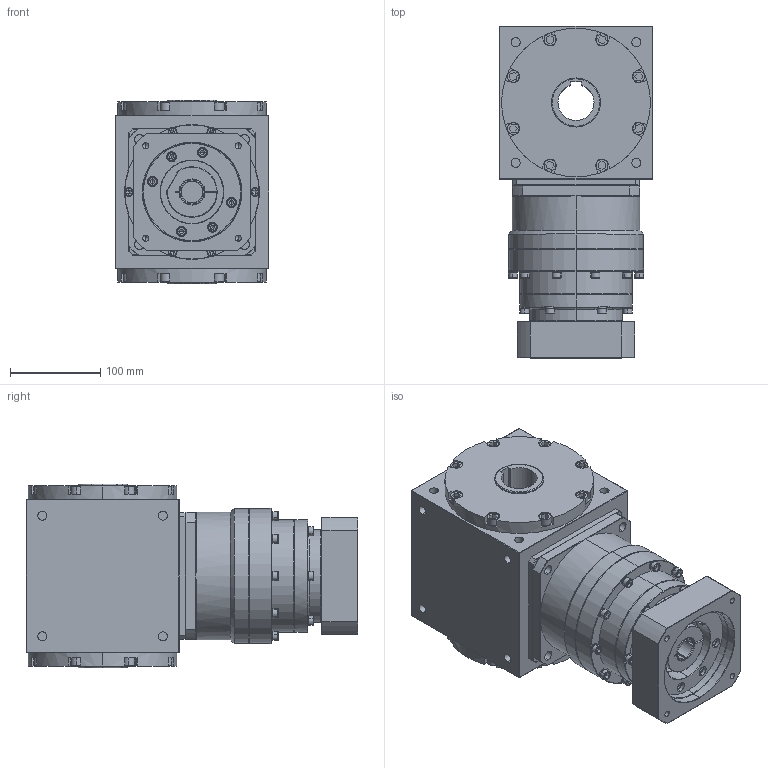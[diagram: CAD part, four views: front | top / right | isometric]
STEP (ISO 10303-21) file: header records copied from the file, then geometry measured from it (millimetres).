
FILE_DESCRIPTION (( 'STEP AP203' ), '1' );
FILE_NAME ('AT170-FH-L2 24-110-145-M8.STEP', '2024-12-26T01:07:43', ( '' ), ( '' ), 'SwSTEP 2.0', 'SolidWorks 2021', '' );
FILE_SCHEMA (( 'CONFIG_CONTROL_DESIGN' ));
Length unit declared in the file: millimetre
Products named in the file (3): AT170-FH-L2 24-110-145-M8; AT170-FH; KS142L2-110-24-62-M8-145俋倛芞
Assembly tree (2 placements, depth 2):
  AT170-FH-L2 24-110-145-M8
    AT170-FH
    KS142L2-110-24-62-M8-145俋倛芞
Bounding box: 170 x 368.5 x 204 mm (x, y, z)
Volume: 7991377.7 mm3; surface area: 522440.1 mm2
Topology: 52 solids, 52 shells, 1587 faces, 3846 edges, 2391 vertices
Faces by surface type: plane 785, cylinder 543, cone 209, bspline 50
Entity records: 47035 total; most frequent: CARTESIAN_POINT 9874, DIRECTION 7942, ORIENTED_EDGE 7528, EDGE_CURVE 3764, AXIS2_PLACEMENT_3D 2997, VERTEX_POINT 2391, LINE 1948, VECTOR 1948
